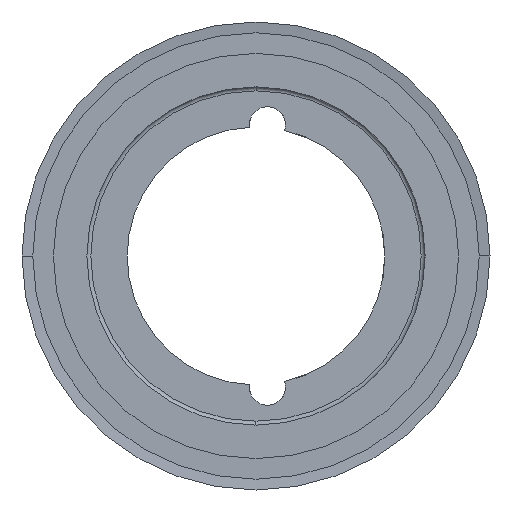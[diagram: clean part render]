
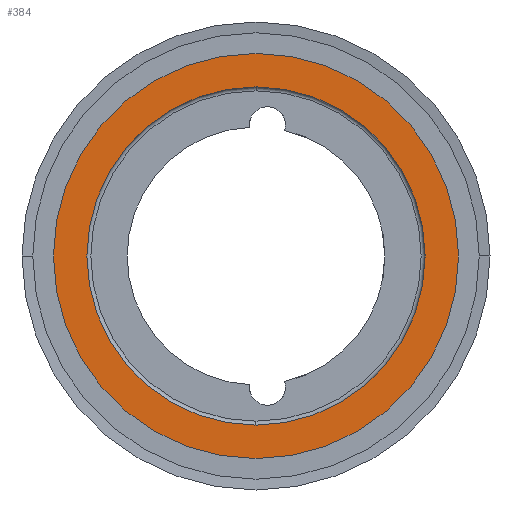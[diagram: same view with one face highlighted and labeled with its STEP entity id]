
A CAD part, left-side view. The second image highlights one B-rep face of the part: STEP entity #384.
In plain terms, the highlighted planar face has unit normal (-1, 0, 0).
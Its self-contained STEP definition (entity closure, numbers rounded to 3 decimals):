
#384 = ADVANCED_FACE( '', ( #1011, #1012 ), #1013, .T. );
#1011 = FACE_BOUND( '', #1639, .T. );
#1012 = FACE_OUTER_BOUND( '', #1640, .T. );
#1013 = PLANE( '', #1641 );
#1639 = EDGE_LOOP( '', ( #4361, #4362 ) );
#1640 = EDGE_LOOP( '', ( #4363, #4364 ) );
#1641 = AXIS2_PLACEMENT_3D( '', #4365, #4366, #4367 );
#4361 = ORIENTED_EDGE( '', *, *, #5256, .F. );
#4362 = ORIENTED_EDGE( '', *, *, #4393, .F. );
#4363 = ORIENTED_EDGE( '', *, *, #4371, .T. );
#4364 = ORIENTED_EDGE( '', *, *, #5265, .T. );
#4365 = CARTESIAN_POINT( '', ( 0., 47.25, 0. ) );
#4366 = DIRECTION( '', ( -1., 0., 0. ) );
#4367 = DIRECTION( '', ( 0., 1., 0. ) );
#4371 = EDGE_CURVE( '', #5267, #5271, #5273, .T. );
#4393 = EDGE_CURVE( '', #5313, #5310, #5315, .T. );
#5256 = EDGE_CURVE( '', #5310, #5313, #6748, .T. );
#5265 = EDGE_CURVE( '', #5271, #5267, #6759, .T. );
#5267 = VERTEX_POINT( '', #6761 );
#5271 = VERTEX_POINT( '', #6766 );
#5273 = CIRCLE( '', #6769, 51.5 );
#5310 = VERTEX_POINT( '', #6810 );
#5313 = VERTEX_POINT( '', #6814 );
#5315 = CIRCLE( '', #6817, 43. );
#6748 = CIRCLE( '', #8850, 43. );
#6759 = CIRCLE( '', #8861, 51.5 );
#6761 = CARTESIAN_POINT( '', ( 0., 51.5, 0. ) );
#6766 = CARTESIAN_POINT( '', ( 0., -51.5, 0. ) );
#6769 = AXIS2_PLACEMENT_3D( '', #8867, #8868, #8869 );
#6810 = CARTESIAN_POINT( '', ( 0., 43., 0. ) );
#6814 = CARTESIAN_POINT( '', ( 0., -43., 0. ) );
#6817 = AXIS2_PLACEMENT_3D( '', #8921, #8922, #8923 );
#8850 = AXIS2_PLACEMENT_3D( '', #10554, #10555, #10556 );
#8861 = AXIS2_PLACEMENT_3D( '', #10581, #10582, #10583 );
#8867 = CARTESIAN_POINT( '', ( 0., 0., 0. ) );
#8868 = DIRECTION( '', ( -1., 0., 0. ) );
#8869 = DIRECTION( '', ( 0., 1., 0. ) );
#8921 = CARTESIAN_POINT( '', ( 0., 0., 0. ) );
#8922 = DIRECTION( '', ( -1., 0., 0. ) );
#8923 = DIRECTION( '', ( 0., 1., 0. ) );
#10554 = CARTESIAN_POINT( '', ( 0., 0., 0. ) );
#10555 = DIRECTION( '', ( -1., 0., 0. ) );
#10556 = DIRECTION( '', ( 0., 1., 0. ) );
#10581 = CARTESIAN_POINT( '', ( 0., 0., 0. ) );
#10582 = DIRECTION( '', ( -1., 0., 0. ) );
#10583 = DIRECTION( '', ( 0., 1., 0. ) );
